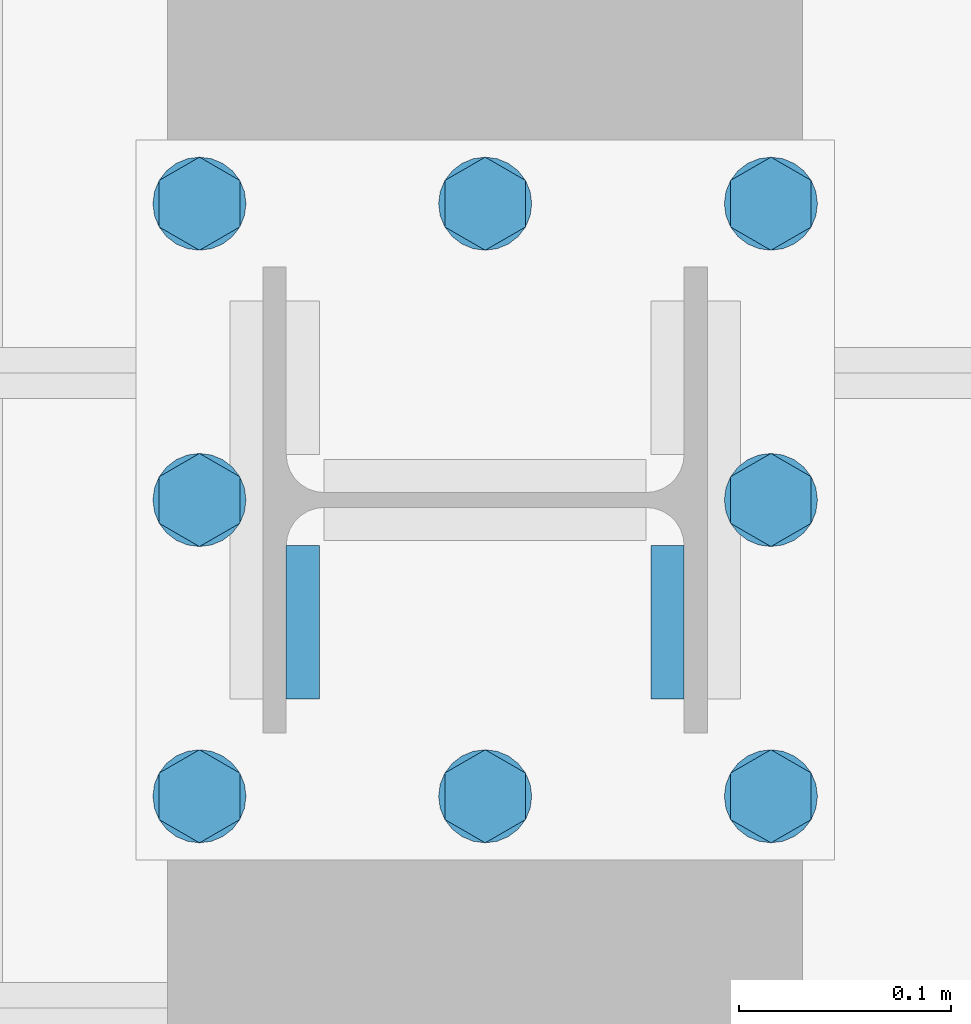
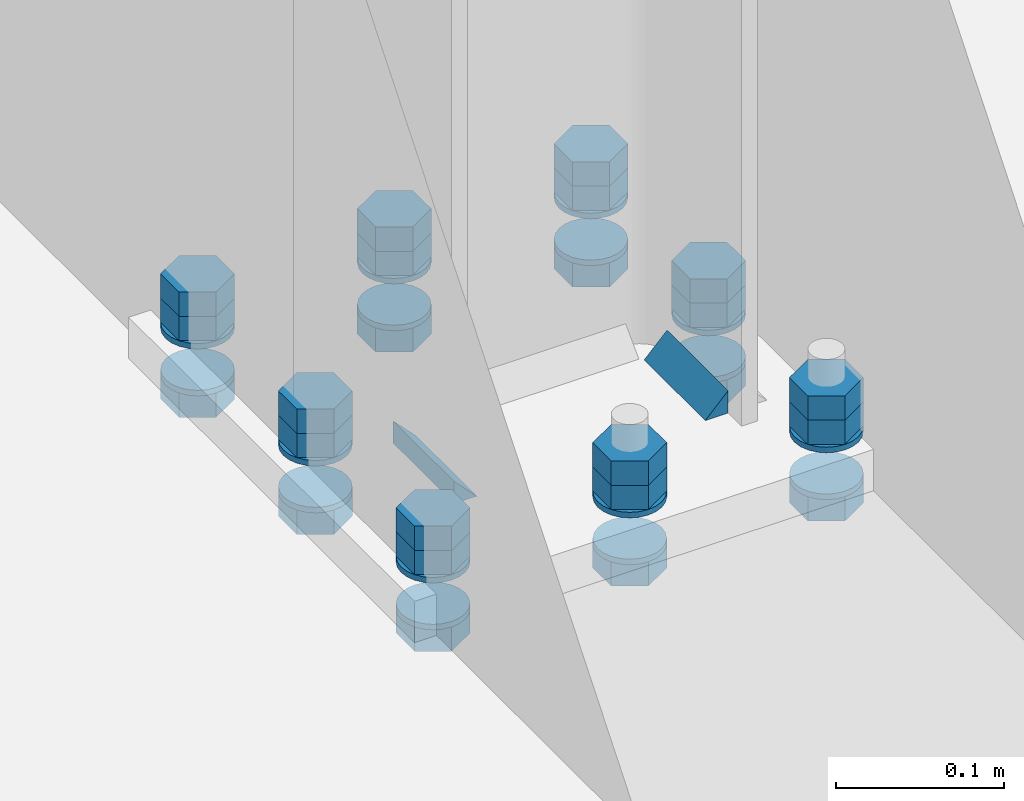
# One storey, part 15 of 29: 40 mechanical fasteners, 2 fasteners.
"""IFC4 building model written with IfcOpenShell, lengths in metres."""

from ifc_helpers import new_model, si_unit, frame, origin_with_axes, place, context, project, spatial, polyline, outline, extrude, type_object, element, save


model = new_model("IFC4")

# Units and contexts
model_context = context("Model", 3, precision=1e-05, world=origin_with_axes())
ifc_project = project(units=[si_unit("LENGTHUNIT", "METRE"), si_unit("AREAUNIT", "SQUARE_METRE"), si_unit("VOLUMEUNIT", "CUBIC_METRE"), si_unit("MASSUNIT", "GRAM", prefix="KILO"), si_unit("TIMEUNIT", "SECOND"), si_unit("PLANEANGLEUNIT", "RADIAN"), si_unit("SOLIDANGLEUNIT", "STERADIAN"), si_unit("THERMODYNAMICTEMPERATUREUNIT", "DEGREE_CELSIUS")], contexts=[model_context])

# Site, building, storey
placement_1 = place(None, origin_with_axes())
site = spatial("IfcSite", under=ifc_project, at=placement_1, Name="Italia", CompositionType="ELEMENT")
building = spatial("IfcBuilding", under=site, at=placement_1, Name="Capannone", CompositionType="ELEMENT")
storey = spatial("IfcBuildingStorey", under=building, at=placement_1, Name="Storey 0", CompositionType="ELEMENT", Elevation=0.0)

# Fasteners
fastener_type_1 = type_object("IfcFastenerType", Name="Collegamenti 0001_0101 0002_0102 0003_0103 0004_0104 0005_0105 0006_0106 0007_0107 0008_0108 0009_0109 0010_0110 0011_0111 0012_0112", PredefinedType="WELD")
placement_2 = place(placement_1, origin_with_axes())
fastener_1_placement = place(placement_2, origin_with_axes())
element("IfcFastener", 1, at=fastener_1_placement, inside=storey, type_object=fastener_type_1, Name="Collegamenti 0001_0101 0002_0102 0003_0103 0004_0104 0005_0105 0006_0106 0007_0107 0008_0108 0009_0109 0010_0110 0011_0111 0012_0112", context=model_context, shape_type="SweptSolid", body=[
    extrude(outline(polyline([(0.0, 0.0), (0.0156882, 0.0161734), (0.0156882, 0.0), (0.0, 0.0)])), frame((0.0783618, 5.97855, 0.02995), z_axis=(0.0, -1.0, 0.0), x_axis=(1.0, 0.0, 0.0)), (0.0, 0.0, 1.0), 0.0725999),
])
fastener_type_2 = type_object("IfcFastenerType", Name="Collegamenti 0001_0101 0002_0102 0003_0103 0004_0104 0005_0105 0006_0106 0007_0107 0008_0108 0009_0109 0010_0110 0011_0111 0012_0112", PredefinedType="WELD")
fastener_2_placement = place(placement_2, origin_with_axes())
element("IfcFastener", 2, at=fastener_2_placement, inside=storey, type_object=fastener_type_2, Name="Collegamenti 0001_0101 0002_0102 0003_0103 0004_0104 0005_0105 0006_0106 0007_0107 0008_0108 0009_0109 0010_0110 0011_0111 0012_0112", context=model_context, shape_type="SweptSolid", body=[
    extrude(outline(polyline([(0.0, 0.0), (0.0156882, 0.0161734), (0.0156882, 0.0), (0.0, 0.0)])), frame((-0.0783618, 5.90595, 0.02995), z_axis=(0.0, 1.0, 0.0), x_axis=(-1.0, 0.0, 0.0)), (0.0, 0.0, 1.0), 0.0725999),
])

# Mechanical fasteners
mechanical_fastener_type_1 = type_object("IfcMechanicalFastenerType", Name="Collegamenti 0001_0101 0002_0102 0003_0103 0004_0104 0005_0105 0006_0106 0007_0107 0008_0108 0009_0109 0010_0110 0011_0111 0012_0112", PredefinedType="BOLT")
mechanical_fastener_1_placement = place(placement_2, origin_with_axes())
element("IfcMechanicalFastener", 3, at=mechanical_fastener_1_placement, inside=storey, type_object=mechanical_fastener_type_1, Name="Collegamenti 0001_0101 0002_0102 0003_0103 0004_0104 0005_0105 0006_0106 0007_0107 0008_0108 0009_0109 0010_0110 0011_0111 0012_0112", NominalDiameter=0.0219998, context=model_context, shape_type="SweptSolid", body=[
    extrude(outline(polyline([(0.0, 0.0), (-0.0219998, 0.0), (-0.033, 0.0190526), (-0.0219998, 0.0381051), (0.0, 0.0381051), (0.0110002, 0.0190526), (0.0, 0.0)])), frame((0.154053, 5.871, 0.034), z_axis=(0.0, 0.0, 1.0), x_axis=(0.0, 1.0, 0.0)), (0.0, 0.0, 1.0), 0.0176),
])
mechanical_fastener_type_2 = type_object("IfcMechanicalFastenerType", Name="Collegamenti 0001_0101 0002_0102 0003_0103 0004_0104 0005_0105 0006_0106 0007_0107 0008_0108 0009_0109 0010_0110 0011_0111 0012_0112", PredefinedType="BOLT")
mechanical_fastener_2_placement = place(placement_2, origin_with_axes())
element("IfcMechanicalFastener", 4, at=mechanical_fastener_2_placement, inside=storey, type_object=mechanical_fastener_type_2, Name="Collegamenti 0001_0101 0002_0102 0003_0103 0004_0104 0005_0105 0006_0106 0007_0107 0008_0108 0009_0109 0010_0110 0011_0111 0012_0112", NominalDiameter=0.0219998, context=model_context, shape_type="SweptSolid", body=[
    extrude(outline(polyline([(0.0, 0.0), (-0.0219998, 0.0), (-0.033, 0.0190526), (-0.0219998, 0.0381051), (0.0, 0.0381051), (0.0110002, 0.0190526), (0.0, 0.0)])), frame((0.154053, 5.871, 0.0516), z_axis=(0.0, 0.0, 1.0), x_axis=(0.0, 1.0, 0.0)), (0.0, 0.0, 1.0), 0.0176),
])
mechanical_fastener_type_3 = type_object("IfcMechanicalFastenerType", Name="Collegamenti 0001_0101 0002_0102 0003_0103 0004_0104 0005_0105 0006_0106 0007_0107 0008_0108 0009_0109 0010_0110 0011_0111 0012_0112", PredefinedType="BOLT")
mechanical_fastener_3_placement = place(placement_2, origin_with_axes())
element("IfcMechanicalFastener", 5, at=mechanical_fastener_3_placement, inside=storey, type_object=mechanical_fastener_type_3, Name="Collegamenti 0001_0101 0002_0102 0003_0103 0004_0104 0005_0105 0006_0106 0007_0107 0008_0108 0009_0109 0010_0110 0011_0111 0012_0112", NominalDiameter=0.0219998, context=model_context, shape_type="SweptSolid", body=[
    extrude(outline(polyline([(0.0, 0.0), (-0.0219998, 0.0), (-0.033, 0.0190526), (-0.0219998, 0.0381051), (0.0, 0.0381051), (0.0110002, 0.0190526), (0.0, 0.0)])), frame((0.154053, 5.871, -0.0216), z_axis=(0.0, 0.0, 1.0), x_axis=(0.0, 1.0, 0.0)), (0.0, 0.0, 1.0), 0.0176),
])
mechanical_fastener_type_4 = type_object("IfcMechanicalFastenerType", Name="Collegamenti 0001_0101 0002_0102 0003_0103 0004_0104 0005_0105 0006_0106 0007_0107 0008_0108 0009_0109 0010_0110 0011_0111 0012_0112", PredefinedType="BOLT")
mechanical_fastener_4_placement = place(placement_2, origin_with_axes())
element("IfcMechanicalFastener", 6, at=mechanical_fastener_4_placement, inside=storey, type_object=mechanical_fastener_type_4, Name="Collegamenti 0001_0101 0002_0102 0003_0103 0004_0104 0005_0105 0006_0106 0007_0107 0008_0108 0009_0109 0010_0110 0011_0111 0012_0112", NominalDiameter=0.044, context=model_context, shape_type="SweptSolid", body=[
    extrude(outline(polyline([(0.0, 0.0), (-0.000749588, -0.00569402), (-0.00294733, -0.011), (-0.0064435, -0.0155564), (-0.0109997, -0.0190526), (-0.0163059, -0.0212504), (-0.0219998, -0.022), (-0.0276937, -0.0212504), (-0.033, -0.0190526), (-0.0375562, -0.0155564), (-0.0410523, -0.011), (-0.0432501, -0.00569402), (-0.0439997, 0.0), (-0.0432501, 0.00569402), (-0.0410523, 0.011), (-0.0375562, 0.0155564), (-0.033, 0.0190526), (-0.0276937, 0.0212504), (-0.0219998, 0.022), (-0.0163059, 0.0212504), (-0.0109997, 0.0190526), (-0.0064435, 0.0155563), (-0.00294733, 0.011), (-0.000749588, 0.00569402), (0.0, 0.0)])), frame((0.135, 5.882, 0.03), z_axis=(0.0, 0.0, 1.0), x_axis=(0.0, 1.0, 0.0)), (0.0, 0.0, 1.0), 0.004),
])
mechanical_fastener_type_5 = type_object("IfcMechanicalFastenerType", Name="Collegamenti 0001_0101 0002_0102 0003_0103 0004_0104 0005_0105 0006_0106 0007_0107 0008_0108 0009_0109 0010_0110 0011_0111 0012_0112", PredefinedType="BOLT")
mechanical_fastener_5_placement = place(placement_2, origin_with_axes())
element("IfcMechanicalFastener", 7, at=mechanical_fastener_5_placement, inside=storey, type_object=mechanical_fastener_type_5, Name="Collegamenti 0001_0101 0002_0102 0003_0103 0004_0104 0005_0105 0006_0106 0007_0107 0008_0108 0009_0109 0010_0110 0011_0111 0012_0112", NominalDiameter=0.044, context=model_context, shape_type="SweptSolid", body=[
    extrude(outline(polyline([(0.0, 0.0), (-0.000749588, -0.00569402), (-0.00294733, -0.011), (-0.0064435, -0.0155564), (-0.0109997, -0.0190526), (-0.0163059, -0.0212504), (-0.0219998, -0.022), (-0.0276937, -0.0212504), (-0.033, -0.0190526), (-0.0375562, -0.0155564), (-0.0410523, -0.011), (-0.0432501, -0.00569402), (-0.0439997, 0.0), (-0.0432501, 0.00569402), (-0.0410523, 0.011), (-0.0375562, 0.0155564), (-0.033, 0.0190526), (-0.0276937, 0.0212504), (-0.0219998, 0.022), (-0.0163059, 0.0212504), (-0.0109997, 0.0190526), (-0.0064435, 0.0155563), (-0.00294733, 0.011), (-0.000749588, 0.00569402), (0.0, 0.0)])), frame((0.135, 5.882, -0.004), z_axis=(0.0, 0.0, 1.0), x_axis=(0.0, 1.0, 0.0)), (0.0, 0.0, 1.0), 0.004),
])
mechanical_fastener_type_6 = type_object("IfcMechanicalFastenerType", Name="Collegamenti 0001_0101 0002_0102 0003_0103 0004_0104 0005_0105 0006_0106 0007_0107 0008_0108 0009_0109 0010_0110 0011_0111 0012_0112", PredefinedType="BOLT")
mechanical_fastener_6_placement = place(placement_2, origin_with_axes())
element("IfcMechanicalFastener", 8, at=mechanical_fastener_6_placement, inside=storey, type_object=mechanical_fastener_type_6, Name="Collegamenti 0001_0101 0002_0102 0003_0103 0004_0104 0005_0105 0006_0106 0007_0107 0008_0108 0009_0109 0010_0110 0011_0111 0012_0112", NominalDiameter=0.0219998, context=model_context, shape_type="SweptSolid", body=[
    extrude(outline(polyline([(0.0, 0.0), (-0.0220003, 0.0), (-0.033, 0.0190526), (-0.0220003, 0.0381051), (0.0, 0.0381051), (0.0109997, 0.0190526), (0.0, 0.0)])), frame((0.154053, 6.011, 0.034), z_axis=(0.0, 0.0, 1.0), x_axis=(0.0, 1.0, 0.0)), (0.0, 0.0, 1.0), 0.0176),
])
mechanical_fastener_type_7 = type_object("IfcMechanicalFastenerType", Name="Collegamenti 0001_0101 0002_0102 0003_0103 0004_0104 0005_0105 0006_0106 0007_0107 0008_0108 0009_0109 0010_0110 0011_0111 0012_0112", PredefinedType="BOLT")
mechanical_fastener_7_placement = place(placement_2, origin_with_axes())
element("IfcMechanicalFastener", 9, at=mechanical_fastener_7_placement, inside=storey, type_object=mechanical_fastener_type_7, Name="Collegamenti 0001_0101 0002_0102 0003_0103 0004_0104 0005_0105 0006_0106 0007_0107 0008_0108 0009_0109 0010_0110 0011_0111 0012_0112", NominalDiameter=0.0219998, context=model_context, shape_type="SweptSolid", body=[
    extrude(outline(polyline([(0.0, 0.0), (-0.0220003, 0.0), (-0.033, 0.0190526), (-0.0220003, 0.0381051), (0.0, 0.0381051), (0.0109997, 0.0190526), (0.0, 0.0)])), frame((0.154053, 6.011, 0.0516), z_axis=(0.0, 0.0, 1.0), x_axis=(0.0, 1.0, 0.0)), (0.0, 0.0, 1.0), 0.0176),
])
mechanical_fastener_type_8 = type_object("IfcMechanicalFastenerType", Name="Collegamenti 0001_0101 0002_0102 0003_0103 0004_0104 0005_0105 0006_0106 0007_0107 0008_0108 0009_0109 0010_0110 0011_0111 0012_0112", PredefinedType="BOLT")
mechanical_fastener_8_placement = place(placement_2, origin_with_axes())
element("IfcMechanicalFastener", 10, at=mechanical_fastener_8_placement, inside=storey, type_object=mechanical_fastener_type_8, Name="Collegamenti 0001_0101 0002_0102 0003_0103 0004_0104 0005_0105 0006_0106 0007_0107 0008_0108 0009_0109 0010_0110 0011_0111 0012_0112", NominalDiameter=0.0219998, context=model_context, shape_type="SweptSolid", body=[
    extrude(outline(polyline([(0.0, 0.0), (-0.0220003, 0.0), (-0.033, 0.0190526), (-0.0220003, 0.0381051), (0.0, 0.0381051), (0.0109997, 0.0190526), (0.0, 0.0)])), frame((0.154053, 6.011, -0.0216), z_axis=(0.0, 0.0, 1.0), x_axis=(0.0, 1.0, 0.0)), (0.0, 0.0, 1.0), 0.0176),
])
mechanical_fastener_type_9 = type_object("IfcMechanicalFastenerType", Name="Collegamenti 0001_0101 0002_0102 0003_0103 0004_0104 0005_0105 0006_0106 0007_0107 0008_0108 0009_0109 0010_0110 0011_0111 0012_0112", PredefinedType="BOLT")
mechanical_fastener_9_placement = place(placement_2, origin_with_axes())
element("IfcMechanicalFastener", 11, at=mechanical_fastener_9_placement, inside=storey, type_object=mechanical_fastener_type_9, Name="Collegamenti 0001_0101 0002_0102 0003_0103 0004_0104 0005_0105 0006_0106 0007_0107 0008_0108 0009_0109 0010_0110 0011_0111 0012_0112", NominalDiameter=0.044, context=model_context, shape_type="SweptSolid", body=[
    extrude(outline(polyline([(0.0, 0.0), (-0.000749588, -0.00569402), (-0.00294733, -0.011), (-0.0064435, -0.0155564), (-0.0109997, -0.0190526), (-0.0163059, -0.0212504), (-0.0219998, -0.022), (-0.0276937, -0.0212504), (-0.033, -0.0190526), (-0.0375562, -0.0155564), (-0.0410523, -0.011), (-0.0432501, -0.00569402), (-0.0439997, 0.0), (-0.0432501, 0.00569402), (-0.0410523, 0.011), (-0.0375562, 0.0155564), (-0.033, 0.0190526), (-0.0276937, 0.0212504), (-0.0219998, 0.022), (-0.0163059, 0.0212504), (-0.0109997, 0.0190526), (-0.0064435, 0.0155563), (-0.00294733, 0.011), (-0.000749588, 0.00569402), (0.0, 0.0)])), frame((0.135, 6.022, 0.03), z_axis=(0.0, 0.0, 1.0), x_axis=(0.0, 1.0, 0.0)), (0.0, 0.0, 1.0), 0.004),
])
mechanical_fastener_type_10 = type_object("IfcMechanicalFastenerType", Name="Collegamenti 0001_0101 0002_0102 0003_0103 0004_0104 0005_0105 0006_0106 0007_0107 0008_0108 0009_0109 0010_0110 0011_0111 0012_0112", PredefinedType="BOLT")
mechanical_fastener_10_placement = place(placement_2, origin_with_axes())
element("IfcMechanicalFastener", 12, at=mechanical_fastener_10_placement, inside=storey, type_object=mechanical_fastener_type_10, Name="Collegamenti 0001_0101 0002_0102 0003_0103 0004_0104 0005_0105 0006_0106 0007_0107 0008_0108 0009_0109 0010_0110 0011_0111 0012_0112", NominalDiameter=0.044, context=model_context, shape_type="SweptSolid", body=[
    extrude(outline(polyline([(0.0, 0.0), (-0.000749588, -0.00569402), (-0.00294733, -0.011), (-0.0064435, -0.0155564), (-0.0109997, -0.0190526), (-0.0163059, -0.0212504), (-0.0219998, -0.022), (-0.0276937, -0.0212504), (-0.033, -0.0190526), (-0.0375562, -0.0155564), (-0.0410523, -0.011), (-0.0432501, -0.00569402), (-0.0439997, 0.0), (-0.0432501, 0.00569402), (-0.0410523, 0.011), (-0.0375562, 0.0155564), (-0.033, 0.0190526), (-0.0276937, 0.0212504), (-0.0219998, 0.022), (-0.0163059, 0.0212504), (-0.0109997, 0.0190526), (-0.0064435, 0.0155563), (-0.00294733, 0.011), (-0.000749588, 0.00569402), (0.0, 0.0)])), frame((0.135, 6.022, -0.004), z_axis=(0.0, 0.0, 1.0), x_axis=(0.0, 1.0, 0.0)), (0.0, 0.0, 1.0), 0.004),
])
mechanical_fastener_type_11 = type_object("IfcMechanicalFastenerType", Name="Collegamenti 0001_0101 0002_0102 0003_0103 0004_0104 0005_0105 0006_0106 0007_0107 0008_0108 0009_0109 0010_0110 0011_0111 0012_0112", PredefinedType="BOLT")
mechanical_fastener_11_placement = place(placement_2, origin_with_axes())
element("IfcMechanicalFastener", 13, at=mechanical_fastener_11_placement, inside=storey, type_object=mechanical_fastener_type_11, Name="Collegamenti 0001_0101 0002_0102 0003_0103 0004_0104 0005_0105 0006_0106 0007_0107 0008_0108 0009_0109 0010_0110 0011_0111 0012_0112", NominalDiameter=0.0219998, context=model_context, shape_type="SweptSolid", body=[
    extrude(outline(polyline([(0.0, 0.0), (-0.0219998, 0.0), (-0.033, 0.0190526), (-0.0219998, 0.0381051), (0.0, 0.0381051), (0.0110002, 0.0190526), (0.0, 0.0)])), frame((0.154053, 6.151, 0.034), z_axis=(0.0, 0.0, 1.0), x_axis=(0.0, 1.0, 0.0)), (0.0, 0.0, 1.0), 0.0176),
])
mechanical_fastener_type_12 = type_object("IfcMechanicalFastenerType", Name="Collegamenti 0001_0101 0002_0102 0003_0103 0004_0104 0005_0105 0006_0106 0007_0107 0008_0108 0009_0109 0010_0110 0011_0111 0012_0112", PredefinedType="BOLT")
mechanical_fastener_12_placement = place(placement_2, origin_with_axes())
element("IfcMechanicalFastener", 14, at=mechanical_fastener_12_placement, inside=storey, type_object=mechanical_fastener_type_12, Name="Collegamenti 0001_0101 0002_0102 0003_0103 0004_0104 0005_0105 0006_0106 0007_0107 0008_0108 0009_0109 0010_0110 0011_0111 0012_0112", NominalDiameter=0.0219998, context=model_context, shape_type="SweptSolid", body=[
    extrude(outline(polyline([(0.0, 0.0), (-0.0219998, 0.0), (-0.033, 0.0190526), (-0.0219998, 0.0381051), (0.0, 0.0381051), (0.0110002, 0.0190526), (0.0, 0.0)])), frame((0.154053, 6.151, 0.0516), z_axis=(0.0, 0.0, 1.0), x_axis=(0.0, 1.0, 0.0)), (0.0, 0.0, 1.0), 0.0176),
])
mechanical_fastener_type_13 = type_object("IfcMechanicalFastenerType", Name="Collegamenti 0001_0101 0002_0102 0003_0103 0004_0104 0005_0105 0006_0106 0007_0107 0008_0108 0009_0109 0010_0110 0011_0111 0012_0112", PredefinedType="BOLT")
mechanical_fastener_13_placement = place(placement_2, origin_with_axes())
element("IfcMechanicalFastener", 15, at=mechanical_fastener_13_placement, inside=storey, type_object=mechanical_fastener_type_13, Name="Collegamenti 0001_0101 0002_0102 0003_0103 0004_0104 0005_0105 0006_0106 0007_0107 0008_0108 0009_0109 0010_0110 0011_0111 0012_0112", NominalDiameter=0.0219998, context=model_context, shape_type="SweptSolid", body=[
    extrude(outline(polyline([(0.0, 0.0), (-0.0219998, 0.0), (-0.033, 0.0190526), (-0.0219998, 0.0381051), (0.0, 0.0381051), (0.0110002, 0.0190526), (0.0, 0.0)])), frame((0.154053, 6.151, -0.0216), z_axis=(0.0, 0.0, 1.0), x_axis=(0.0, 1.0, 0.0)), (0.0, 0.0, 1.0), 0.0176),
])
mechanical_fastener_type_14 = type_object("IfcMechanicalFastenerType", Name="Collegamenti 0001_0101 0002_0102 0003_0103 0004_0104 0005_0105 0006_0106 0007_0107 0008_0108 0009_0109 0010_0110 0011_0111 0012_0112", PredefinedType="BOLT")
mechanical_fastener_14_placement = place(placement_2, origin_with_axes())
element("IfcMechanicalFastener", 16, at=mechanical_fastener_14_placement, inside=storey, type_object=mechanical_fastener_type_14, Name="Collegamenti 0001_0101 0002_0102 0003_0103 0004_0104 0005_0105 0006_0106 0007_0107 0008_0108 0009_0109 0010_0110 0011_0111 0012_0112", NominalDiameter=0.044, context=model_context, shape_type="SweptSolid", body=[
    extrude(outline(polyline([(0.0, 0.0), (-0.000749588, -0.00569402), (-0.00294733, -0.011), (-0.0064435, -0.0155564), (-0.0109997, -0.0190526), (-0.0163059, -0.0212504), (-0.0219998, -0.022), (-0.0276937, -0.0212504), (-0.033, -0.0190526), (-0.0375562, -0.0155564), (-0.0410523, -0.011), (-0.0432501, -0.00569402), (-0.0439997, 0.0), (-0.0432501, 0.00569402), (-0.0410523, 0.011), (-0.0375562, 0.0155564), (-0.033, 0.0190526), (-0.0276937, 0.0212504), (-0.0219998, 0.022), (-0.0163059, 0.0212504), (-0.0109997, 0.0190526), (-0.0064435, 0.0155563), (-0.00294733, 0.011), (-0.000749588, 0.00569402), (0.0, 0.0)])), frame((0.135, 6.162, 0.03), z_axis=(0.0, 0.0, 1.0), x_axis=(0.0, 1.0, 0.0)), (0.0, 0.0, 1.0), 0.004),
])
mechanical_fastener_type_15 = type_object("IfcMechanicalFastenerType", Name="Collegamenti 0001_0101 0002_0102 0003_0103 0004_0104 0005_0105 0006_0106 0007_0107 0008_0108 0009_0109 0010_0110 0011_0111 0012_0112", PredefinedType="BOLT")
mechanical_fastener_15_placement = place(placement_2, origin_with_axes())
element("IfcMechanicalFastener", 17, at=mechanical_fastener_15_placement, inside=storey, type_object=mechanical_fastener_type_15, Name="Collegamenti 0001_0101 0002_0102 0003_0103 0004_0104 0005_0105 0006_0106 0007_0107 0008_0108 0009_0109 0010_0110 0011_0111 0012_0112", NominalDiameter=0.044, context=model_context, shape_type="SweptSolid", body=[
    extrude(outline(polyline([(0.0, 0.0), (-0.000749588, -0.00569402), (-0.00294733, -0.011), (-0.0064435, -0.0155564), (-0.0109997, -0.0190526), (-0.0163059, -0.0212504), (-0.0219998, -0.022), (-0.0276937, -0.0212504), (-0.033, -0.0190526), (-0.0375562, -0.0155564), (-0.0410523, -0.011), (-0.0432501, -0.00569402), (-0.0439997, 0.0), (-0.0432501, 0.00569402), (-0.0410523, 0.011), (-0.0375562, 0.0155564), (-0.033, 0.0190526), (-0.0276937, 0.0212504), (-0.0219998, 0.022), (-0.0163059, 0.0212504), (-0.0109997, 0.0190526), (-0.0064435, 0.0155563), (-0.00294733, 0.011), (-0.000749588, 0.00569402), (0.0, 0.0)])), frame((0.135, 6.162, -0.004), z_axis=(0.0, 0.0, 1.0), x_axis=(0.0, 1.0, 0.0)), (0.0, 0.0, 1.0), 0.004),
])
mechanical_fastener_type_16 = type_object("IfcMechanicalFastenerType", Name="Collegamenti 0001_0101 0002_0102 0003_0103 0004_0104 0005_0105 0006_0106 0007_0107 0008_0108 0009_0109 0010_0110 0011_0111 0012_0112", PredefinedType="BOLT")
mechanical_fastener_16_placement = place(placement_2, origin_with_axes())
element("IfcMechanicalFastener", 18, at=mechanical_fastener_16_placement, inside=storey, type_object=mechanical_fastener_type_16, Name="Collegamenti 0001_0101 0002_0102 0003_0103 0004_0104 0005_0105 0006_0106 0007_0107 0008_0108 0009_0109 0010_0110 0011_0111 0012_0112", NominalDiameter=0.0219998, context=model_context, shape_type="SweptSolid", body=[
    extrude(outline(polyline([(0.0, 0.0), (-0.0219998, 0.0), (-0.033, 0.0190526), (-0.0219998, 0.0381051), (0.0, 0.0381051), (0.0110002, 0.0190526), (0.0, 0.0)])), frame((0.0190526, 5.871, 0.034), z_axis=(0.0, 0.0, 1.0), x_axis=(0.0, 1.0, 0.0)), (0.0, 0.0, 1.0), 0.0176),
])
mechanical_fastener_type_17 = type_object("IfcMechanicalFastenerType", Name="Collegamenti 0001_0101 0002_0102 0003_0103 0004_0104 0005_0105 0006_0106 0007_0107 0008_0108 0009_0109 0010_0110 0011_0111 0012_0112", PredefinedType="BOLT")
mechanical_fastener_17_placement = place(placement_2, origin_with_axes())
element("IfcMechanicalFastener", 19, at=mechanical_fastener_17_placement, inside=storey, type_object=mechanical_fastener_type_17, Name="Collegamenti 0001_0101 0002_0102 0003_0103 0004_0104 0005_0105 0006_0106 0007_0107 0008_0108 0009_0109 0010_0110 0011_0111 0012_0112", NominalDiameter=0.0219998, context=model_context, shape_type="SweptSolid", body=[
    extrude(outline(polyline([(0.0, 0.0), (-0.0219998, 0.0), (-0.033, 0.0190526), (-0.0219998, 0.0381051), (0.0, 0.0381051), (0.0110002, 0.0190526), (0.0, 0.0)])), frame((0.0190526, 5.871, 0.0516), z_axis=(0.0, 0.0, 1.0), x_axis=(0.0, 1.0, 0.0)), (0.0, 0.0, 1.0), 0.0176),
])
mechanical_fastener_type_18 = type_object("IfcMechanicalFastenerType", Name="Collegamenti 0001_0101 0002_0102 0003_0103 0004_0104 0005_0105 0006_0106 0007_0107 0008_0108 0009_0109 0010_0110 0011_0111 0012_0112", PredefinedType="BOLT")
mechanical_fastener_18_placement = place(placement_2, origin_with_axes())
element("IfcMechanicalFastener", 20, at=mechanical_fastener_18_placement, inside=storey, type_object=mechanical_fastener_type_18, Name="Collegamenti 0001_0101 0002_0102 0003_0103 0004_0104 0005_0105 0006_0106 0007_0107 0008_0108 0009_0109 0010_0110 0011_0111 0012_0112", NominalDiameter=0.0219998, context=model_context, shape_type="SweptSolid", body=[
    extrude(outline(polyline([(0.0, 0.0), (-0.0219998, 0.0), (-0.033, 0.0190526), (-0.0219998, 0.0381051), (0.0, 0.0381051), (0.0110002, 0.0190526), (0.0, 0.0)])), frame((0.0190526, 5.871, -0.0216), z_axis=(0.0, 0.0, 1.0), x_axis=(0.0, 1.0, 0.0)), (0.0, 0.0, 1.0), 0.0176),
])
mechanical_fastener_type_19 = type_object("IfcMechanicalFastenerType", Name="Collegamenti 0001_0101 0002_0102 0003_0103 0004_0104 0005_0105 0006_0106 0007_0107 0008_0108 0009_0109 0010_0110 0011_0111 0012_0112", PredefinedType="BOLT")
mechanical_fastener_19_placement = place(placement_2, origin_with_axes())
element("IfcMechanicalFastener", 21, at=mechanical_fastener_19_placement, inside=storey, type_object=mechanical_fastener_type_19, Name="Collegamenti 0001_0101 0002_0102 0003_0103 0004_0104 0005_0105 0006_0106 0007_0107 0008_0108 0009_0109 0010_0110 0011_0111 0012_0112", NominalDiameter=0.044, context=model_context, shape_type="SweptSolid", body=[
    extrude(outline(polyline([(0.0, 0.0), (-0.000749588, -0.00569402), (-0.00294733, -0.011), (-0.0064435, -0.0155563), (-0.0109997, -0.0190526), (-0.0163059, -0.0212504), (-0.0219998, -0.022), (-0.0276937, -0.0212504), (-0.033, -0.0190526), (-0.0375562, -0.0155563), (-0.0410523, -0.011), (-0.0432501, -0.00569402), (-0.0439997, 0.0), (-0.0432501, 0.00569402), (-0.0410523, 0.011), (-0.0375562, 0.0155564), (-0.033, 0.0190526), (-0.0276937, 0.0212504), (-0.0219998, 0.022), (-0.0163059, 0.0212504), (-0.0109997, 0.0190526), (-0.0064435, 0.0155563), (-0.00294733, 0.011), (-0.000749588, 0.00569401), (0.0, 0.0)])), frame((0.0, 5.882, 0.03), z_axis=(0.0, 0.0, 1.0), x_axis=(0.0, 1.0, 0.0)), (0.0, 0.0, 1.0), 0.004),
])
mechanical_fastener_type_20 = type_object("IfcMechanicalFastenerType", Name="Collegamenti 0001_0101 0002_0102 0003_0103 0004_0104 0005_0105 0006_0106 0007_0107 0008_0108 0009_0109 0010_0110 0011_0111 0012_0112", PredefinedType="BOLT")
mechanical_fastener_20_placement = place(placement_2, origin_with_axes())
element("IfcMechanicalFastener", 22, at=mechanical_fastener_20_placement, inside=storey, type_object=mechanical_fastener_type_20, Name="Collegamenti 0001_0101 0002_0102 0003_0103 0004_0104 0005_0105 0006_0106 0007_0107 0008_0108 0009_0109 0010_0110 0011_0111 0012_0112", NominalDiameter=0.044, context=model_context, shape_type="SweptSolid", body=[
    extrude(outline(polyline([(0.0, 0.0), (-0.000749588, -0.00569402), (-0.00294733, -0.011), (-0.0064435, -0.0155563), (-0.0109997, -0.0190526), (-0.0163059, -0.0212504), (-0.0219998, -0.022), (-0.0276937, -0.0212504), (-0.033, -0.0190526), (-0.0375562, -0.0155563), (-0.0410523, -0.011), (-0.0432501, -0.00569402), (-0.0439997, 0.0), (-0.0432501, 0.00569402), (-0.0410523, 0.011), (-0.0375562, 0.0155564), (-0.033, 0.0190526), (-0.0276937, 0.0212504), (-0.0219998, 0.022), (-0.0163059, 0.0212504), (-0.0109997, 0.0190526), (-0.0064435, 0.0155563), (-0.00294733, 0.011), (-0.000749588, 0.00569401), (0.0, 0.0)])), frame((0.0, 5.882, -0.004), z_axis=(0.0, 0.0, 1.0), x_axis=(0.0, 1.0, 0.0)), (0.0, 0.0, 1.0), 0.004),
])
mechanical_fastener_type_21 = type_object("IfcMechanicalFastenerType", Name="Collegamenti 0001_0101 0002_0102 0003_0103 0004_0104 0005_0105 0006_0106 0007_0107 0008_0108 0009_0109 0010_0110 0011_0111 0012_0112", PredefinedType="BOLT")
mechanical_fastener_21_placement = place(placement_2, origin_with_axes())
element("IfcMechanicalFastener", 23, at=mechanical_fastener_21_placement, inside=storey, type_object=mechanical_fastener_type_21, Name="Collegamenti 0001_0101 0002_0102 0003_0103 0004_0104 0005_0105 0006_0106 0007_0107 0008_0108 0009_0109 0010_0110 0011_0111 0012_0112", NominalDiameter=0.0219998, context=model_context, shape_type="SweptSolid", body=[
    extrude(outline(polyline([(0.0, 0.0), (-0.0219998, 0.0), (-0.033, 0.0190526), (-0.0219998, 0.0381051), (0.0, 0.0381051), (0.0110002, 0.0190526), (0.0, 0.0)])), frame((0.0190526, 6.151, 0.034), z_axis=(0.0, 0.0, 1.0), x_axis=(0.0, 1.0, 0.0)), (0.0, 0.0, 1.0), 0.0176),
])
mechanical_fastener_type_22 = type_object("IfcMechanicalFastenerType", Name="Collegamenti 0001_0101 0002_0102 0003_0103 0004_0104 0005_0105 0006_0106 0007_0107 0008_0108 0009_0109 0010_0110 0011_0111 0012_0112", PredefinedType="BOLT")
mechanical_fastener_22_placement = place(placement_2, origin_with_axes())
element("IfcMechanicalFastener", 24, at=mechanical_fastener_22_placement, inside=storey, type_object=mechanical_fastener_type_22, Name="Collegamenti 0001_0101 0002_0102 0003_0103 0004_0104 0005_0105 0006_0106 0007_0107 0008_0108 0009_0109 0010_0110 0011_0111 0012_0112", NominalDiameter=0.0219998, context=model_context, shape_type="SweptSolid", body=[
    extrude(outline(polyline([(0.0, 0.0), (-0.0219998, 0.0), (-0.033, 0.0190526), (-0.0219998, 0.0381051), (0.0, 0.0381051), (0.0110002, 0.0190526), (0.0, 0.0)])), frame((0.0190526, 6.151, 0.0516), z_axis=(0.0, 0.0, 1.0), x_axis=(0.0, 1.0, 0.0)), (0.0, 0.0, 1.0), 0.0176),
])
mechanical_fastener_type_23 = type_object("IfcMechanicalFastenerType", Name="Collegamenti 0001_0101 0002_0102 0003_0103 0004_0104 0005_0105 0006_0106 0007_0107 0008_0108 0009_0109 0010_0110 0011_0111 0012_0112", PredefinedType="BOLT")
mechanical_fastener_23_placement = place(placement_2, origin_with_axes())
element("IfcMechanicalFastener", 25, at=mechanical_fastener_23_placement, inside=storey, type_object=mechanical_fastener_type_23, Name="Collegamenti 0001_0101 0002_0102 0003_0103 0004_0104 0005_0105 0006_0106 0007_0107 0008_0108 0009_0109 0010_0110 0011_0111 0012_0112", NominalDiameter=0.0219998, context=model_context, shape_type="SweptSolid", body=[
    extrude(outline(polyline([(0.0, 0.0), (-0.0219998, 0.0), (-0.033, 0.0190526), (-0.0219998, 0.0381051), (0.0, 0.0381051), (0.0110002, 0.0190526), (0.0, 0.0)])), frame((0.0190526, 6.151, -0.0216), z_axis=(0.0, 0.0, 1.0), x_axis=(0.0, 1.0, 0.0)), (0.0, 0.0, 1.0), 0.0176),
])
mechanical_fastener_type_24 = type_object("IfcMechanicalFastenerType", Name="Collegamenti 0001_0101 0002_0102 0003_0103 0004_0104 0005_0105 0006_0106 0007_0107 0008_0108 0009_0109 0010_0110 0011_0111 0012_0112", PredefinedType="BOLT")
mechanical_fastener_24_placement = place(placement_2, origin_with_axes())
element("IfcMechanicalFastener", 26, at=mechanical_fastener_24_placement, inside=storey, type_object=mechanical_fastener_type_24, Name="Collegamenti 0001_0101 0002_0102 0003_0103 0004_0104 0005_0105 0006_0106 0007_0107 0008_0108 0009_0109 0010_0110 0011_0111 0012_0112", NominalDiameter=0.044, context=model_context, shape_type="SweptSolid", body=[
    extrude(outline(polyline([(0.0, 0.0), (-0.000749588, -0.00569402), (-0.00294733, -0.011), (-0.0064435, -0.0155563), (-0.0109997, -0.0190526), (-0.0163059, -0.0212504), (-0.0219998, -0.022), (-0.0276937, -0.0212504), (-0.033, -0.0190526), (-0.0375562, -0.0155563), (-0.0410523, -0.011), (-0.0432501, -0.00569402), (-0.0439997, 0.0), (-0.0432501, 0.00569402), (-0.0410523, 0.011), (-0.0375562, 0.0155564), (-0.033, 0.0190526), (-0.0276937, 0.0212504), (-0.0219998, 0.022), (-0.0163059, 0.0212504), (-0.0109997, 0.0190526), (-0.0064435, 0.0155563), (-0.00294733, 0.011), (-0.000749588, 0.00569401), (0.0, 0.0)])), frame((0.0, 6.162, 0.03), z_axis=(0.0, 0.0, 1.0), x_axis=(0.0, 1.0, 0.0)), (0.0, 0.0, 1.0), 0.004),
])
mechanical_fastener_type_25 = type_object("IfcMechanicalFastenerType", Name="Collegamenti 0001_0101 0002_0102 0003_0103 0004_0104 0005_0105 0006_0106 0007_0107 0008_0108 0009_0109 0010_0110 0011_0111 0012_0112", PredefinedType="BOLT")
mechanical_fastener_25_placement = place(placement_2, origin_with_axes())
element("IfcMechanicalFastener", 27, at=mechanical_fastener_25_placement, inside=storey, type_object=mechanical_fastener_type_25, Name="Collegamenti 0001_0101 0002_0102 0003_0103 0004_0104 0005_0105 0006_0106 0007_0107 0008_0108 0009_0109 0010_0110 0011_0111 0012_0112", NominalDiameter=0.044, context=model_context, shape_type="SweptSolid", body=[
    extrude(outline(polyline([(0.0, 0.0), (-0.000749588, -0.00569402), (-0.00294733, -0.011), (-0.0064435, -0.0155563), (-0.0109997, -0.0190526), (-0.0163059, -0.0212504), (-0.0219998, -0.022), (-0.0276937, -0.0212504), (-0.033, -0.0190526), (-0.0375562, -0.0155563), (-0.0410523, -0.011), (-0.0432501, -0.00569402), (-0.0439997, 0.0), (-0.0432501, 0.00569402), (-0.0410523, 0.011), (-0.0375562, 0.0155564), (-0.033, 0.0190526), (-0.0276937, 0.0212504), (-0.0219998, 0.022), (-0.0163059, 0.0212504), (-0.0109997, 0.0190526), (-0.0064435, 0.0155563), (-0.00294733, 0.011), (-0.000749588, 0.00569401), (0.0, 0.0)])), frame((0.0, 6.162, -0.004), z_axis=(0.0, 0.0, 1.0), x_axis=(0.0, 1.0, 0.0)), (0.0, 0.0, 1.0), 0.004),
])
mechanical_fastener_type_26 = type_object("IfcMechanicalFastenerType", Name="Collegamenti 0001_0101 0002_0102 0003_0103 0004_0104 0005_0105 0006_0106 0007_0107 0008_0108 0009_0109 0010_0110 0011_0111 0012_0112", PredefinedType="BOLT")
mechanical_fastener_26_placement = place(placement_2, origin_with_axes())
element("IfcMechanicalFastener", 28, at=mechanical_fastener_26_placement, inside=storey, type_object=mechanical_fastener_type_26, Name="Collegamenti 0001_0101 0002_0102 0003_0103 0004_0104 0005_0105 0006_0106 0007_0107 0008_0108 0009_0109 0010_0110 0011_0111 0012_0112", NominalDiameter=0.0219998, context=model_context, shape_type="SweptSolid", body=[
    extrude(outline(polyline([(0.0, 0.0), (-0.0219998, 0.0), (-0.033, 0.0190526), (-0.0219998, 0.0381051), (0.0, 0.0381051), (0.0110002, 0.0190526), (0.0, 0.0)])), frame((-0.115947, 5.871, 0.034), z_axis=(0.0, 0.0, 1.0), x_axis=(0.0, 1.0, 0.0)), (0.0, 0.0, 1.0), 0.0176),
])
mechanical_fastener_type_27 = type_object("IfcMechanicalFastenerType", Name="Collegamenti 0001_0101 0002_0102 0003_0103 0004_0104 0005_0105 0006_0106 0007_0107 0008_0108 0009_0109 0010_0110 0011_0111 0012_0112", PredefinedType="BOLT")
mechanical_fastener_27_placement = place(placement_2, origin_with_axes())
element("IfcMechanicalFastener", 29, at=mechanical_fastener_27_placement, inside=storey, type_object=mechanical_fastener_type_27, Name="Collegamenti 0001_0101 0002_0102 0003_0103 0004_0104 0005_0105 0006_0106 0007_0107 0008_0108 0009_0109 0010_0110 0011_0111 0012_0112", NominalDiameter=0.0219998, context=model_context, shape_type="SweptSolid", body=[
    extrude(outline(polyline([(0.0, 0.0), (-0.0219998, 0.0), (-0.033, 0.0190526), (-0.0219998, 0.0381051), (0.0, 0.0381051), (0.0110002, 0.0190526), (0.0, 0.0)])), frame((-0.115947, 5.871, 0.0516), z_axis=(0.0, 0.0, 1.0), x_axis=(0.0, 1.0, 0.0)), (0.0, 0.0, 1.0), 0.0176),
])
mechanical_fastener_type_28 = type_object("IfcMechanicalFastenerType", Name="Collegamenti 0001_0101 0002_0102 0003_0103 0004_0104 0005_0105 0006_0106 0007_0107 0008_0108 0009_0109 0010_0110 0011_0111 0012_0112", PredefinedType="BOLT")
mechanical_fastener_28_placement = place(placement_2, origin_with_axes())
element("IfcMechanicalFastener", 30, at=mechanical_fastener_28_placement, inside=storey, type_object=mechanical_fastener_type_28, Name="Collegamenti 0001_0101 0002_0102 0003_0103 0004_0104 0005_0105 0006_0106 0007_0107 0008_0108 0009_0109 0010_0110 0011_0111 0012_0112", NominalDiameter=0.0219998, context=model_context, shape_type="SweptSolid", body=[
    extrude(outline(polyline([(0.0, 0.0), (-0.0219998, 0.0), (-0.033, 0.0190526), (-0.0219998, 0.0381051), (0.0, 0.0381051), (0.0110002, 0.0190526), (0.0, 0.0)])), frame((-0.115947, 5.871, -0.0216), z_axis=(0.0, 0.0, 1.0), x_axis=(0.0, 1.0, 0.0)), (0.0, 0.0, 1.0), 0.0176),
])
mechanical_fastener_type_29 = type_object("IfcMechanicalFastenerType", Name="Collegamenti 0001_0101 0002_0102 0003_0103 0004_0104 0005_0105 0006_0106 0007_0107 0008_0108 0009_0109 0010_0110 0011_0111 0012_0112", PredefinedType="BOLT")
mechanical_fastener_29_placement = place(placement_2, origin_with_axes())
element("IfcMechanicalFastener", 31, at=mechanical_fastener_29_placement, inside=storey, type_object=mechanical_fastener_type_29, Name="Collegamenti 0001_0101 0002_0102 0003_0103 0004_0104 0005_0105 0006_0106 0007_0107 0008_0108 0009_0109 0010_0110 0011_0111 0012_0112", NominalDiameter=0.044, context=model_context, shape_type="SweptSolid", body=[
    extrude(outline(polyline([(0.0, 0.0), (-0.000749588, -0.00569402), (-0.00294733, -0.011), (-0.0064435, -0.0155564), (-0.0109997, -0.0190526), (-0.0163059, -0.0212504), (-0.0219998, -0.022), (-0.0276937, -0.0212504), (-0.033, -0.0190526), (-0.0375562, -0.0155564), (-0.0410523, -0.011), (-0.0432501, -0.00569402), (-0.0439997, 0.0), (-0.0432501, 0.00569402), (-0.0410523, 0.011), (-0.0375562, 0.0155564), (-0.033, 0.0190526), (-0.0276937, 0.0212504), (-0.0219998, 0.022), (-0.0163059, 0.0212504), (-0.0109997, 0.0190526), (-0.0064435, 0.0155564), (-0.00294733, 0.011), (-0.000749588, 0.00569402), (0.0, 0.0)])), frame((-0.135, 5.882, 0.03), z_axis=(0.0, 0.0, 1.0), x_axis=(0.0, 1.0, 0.0)), (0.0, 0.0, 1.0), 0.004),
])
mechanical_fastener_type_30 = type_object("IfcMechanicalFastenerType", Name="Collegamenti 0001_0101 0002_0102 0003_0103 0004_0104 0005_0105 0006_0106 0007_0107 0008_0108 0009_0109 0010_0110 0011_0111 0012_0112", PredefinedType="BOLT")
mechanical_fastener_30_placement = place(placement_2, origin_with_axes())
element("IfcMechanicalFastener", 32, at=mechanical_fastener_30_placement, inside=storey, type_object=mechanical_fastener_type_30, Name="Collegamenti 0001_0101 0002_0102 0003_0103 0004_0104 0005_0105 0006_0106 0007_0107 0008_0108 0009_0109 0010_0110 0011_0111 0012_0112", NominalDiameter=0.044, context=model_context, shape_type="SweptSolid", body=[
    extrude(outline(polyline([(0.0, 0.0), (-0.000749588, -0.00569402), (-0.00294733, -0.011), (-0.0064435, -0.0155564), (-0.0109997, -0.0190526), (-0.0163059, -0.0212504), (-0.0219998, -0.022), (-0.0276937, -0.0212504), (-0.033, -0.0190526), (-0.0375562, -0.0155564), (-0.0410523, -0.011), (-0.0432501, -0.00569402), (-0.0439997, 0.0), (-0.0432501, 0.00569402), (-0.0410523, 0.011), (-0.0375562, 0.0155564), (-0.033, 0.0190526), (-0.0276937, 0.0212504), (-0.0219998, 0.022), (-0.0163059, 0.0212504), (-0.0109997, 0.0190526), (-0.0064435, 0.0155564), (-0.00294733, 0.011), (-0.000749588, 0.00569402), (0.0, 0.0)])), frame((-0.135, 5.882, -0.004), z_axis=(0.0, 0.0, 1.0), x_axis=(0.0, 1.0, 0.0)), (0.0, 0.0, 1.0), 0.004),
])
mechanical_fastener_type_31 = type_object("IfcMechanicalFastenerType", Name="Collegamenti 0001_0101 0002_0102 0003_0103 0004_0104 0005_0105 0006_0106 0007_0107 0008_0108 0009_0109 0010_0110 0011_0111 0012_0112", PredefinedType="BOLT")
mechanical_fastener_31_placement = place(placement_2, origin_with_axes())
element("IfcMechanicalFastener", 33, at=mechanical_fastener_31_placement, inside=storey, type_object=mechanical_fastener_type_31, Name="Collegamenti 0001_0101 0002_0102 0003_0103 0004_0104 0005_0105 0006_0106 0007_0107 0008_0108 0009_0109 0010_0110 0011_0111 0012_0112", NominalDiameter=0.0219998, context=model_context, shape_type="SweptSolid", body=[
    extrude(outline(polyline([(0.0, 0.0), (-0.0220003, 0.0), (-0.033, 0.0190526), (-0.0220003, 0.0381051), (0.0, 0.0381051), (0.0109997, 0.0190526), (0.0, 0.0)])), frame((-0.115947, 6.011, 0.034), z_axis=(0.0, 0.0, 1.0), x_axis=(0.0, 1.0, 0.0)), (0.0, 0.0, 1.0), 0.0176),
])
mechanical_fastener_type_32 = type_object("IfcMechanicalFastenerType", Name="Collegamenti 0001_0101 0002_0102 0003_0103 0004_0104 0005_0105 0006_0106 0007_0107 0008_0108 0009_0109 0010_0110 0011_0111 0012_0112", PredefinedType="BOLT")
mechanical_fastener_32_placement = place(placement_2, origin_with_axes())
element("IfcMechanicalFastener", 34, at=mechanical_fastener_32_placement, inside=storey, type_object=mechanical_fastener_type_32, Name="Collegamenti 0001_0101 0002_0102 0003_0103 0004_0104 0005_0105 0006_0106 0007_0107 0008_0108 0009_0109 0010_0110 0011_0111 0012_0112", NominalDiameter=0.0219998, context=model_context, shape_type="SweptSolid", body=[
    extrude(outline(polyline([(0.0, 0.0), (-0.0220003, 0.0), (-0.033, 0.0190526), (-0.0220003, 0.0381051), (0.0, 0.0381051), (0.0109997, 0.0190526), (0.0, 0.0)])), frame((-0.115947, 6.011, 0.0516), z_axis=(0.0, 0.0, 1.0), x_axis=(0.0, 1.0, 0.0)), (0.0, 0.0, 1.0), 0.0176),
])
mechanical_fastener_type_33 = type_object("IfcMechanicalFastenerType", Name="Collegamenti 0001_0101 0002_0102 0003_0103 0004_0104 0005_0105 0006_0106 0007_0107 0008_0108 0009_0109 0010_0110 0011_0111 0012_0112", PredefinedType="BOLT")
mechanical_fastener_33_placement = place(placement_2, origin_with_axes())
element("IfcMechanicalFastener", 35, at=mechanical_fastener_33_placement, inside=storey, type_object=mechanical_fastener_type_33, Name="Collegamenti 0001_0101 0002_0102 0003_0103 0004_0104 0005_0105 0006_0106 0007_0107 0008_0108 0009_0109 0010_0110 0011_0111 0012_0112", NominalDiameter=0.0219998, context=model_context, shape_type="SweptSolid", body=[
    extrude(outline(polyline([(0.0, 0.0), (-0.0220003, 0.0), (-0.033, 0.0190526), (-0.0220003, 0.0381051), (0.0, 0.0381051), (0.0109997, 0.0190526), (0.0, 0.0)])), frame((-0.115947, 6.011, -0.0216), z_axis=(0.0, 0.0, 1.0), x_axis=(0.0, 1.0, 0.0)), (0.0, 0.0, 1.0), 0.0176),
])
mechanical_fastener_type_34 = type_object("IfcMechanicalFastenerType", Name="Collegamenti 0001_0101 0002_0102 0003_0103 0004_0104 0005_0105 0006_0106 0007_0107 0008_0108 0009_0109 0010_0110 0011_0111 0012_0112", PredefinedType="BOLT")
mechanical_fastener_34_placement = place(placement_2, origin_with_axes())
element("IfcMechanicalFastener", 36, at=mechanical_fastener_34_placement, inside=storey, type_object=mechanical_fastener_type_34, Name="Collegamenti 0001_0101 0002_0102 0003_0103 0004_0104 0005_0105 0006_0106 0007_0107 0008_0108 0009_0109 0010_0110 0011_0111 0012_0112", NominalDiameter=0.044, context=model_context, shape_type="SweptSolid", body=[
    extrude(outline(polyline([(0.0, 0.0), (-0.000749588, -0.00569402), (-0.00294733, -0.011), (-0.0064435, -0.0155564), (-0.0109997, -0.0190526), (-0.0163059, -0.0212504), (-0.0219998, -0.022), (-0.0276937, -0.0212504), (-0.033, -0.0190526), (-0.0375562, -0.0155564), (-0.0410523, -0.011), (-0.0432501, -0.00569402), (-0.0439997, 0.0), (-0.0432501, 0.00569402), (-0.0410523, 0.011), (-0.0375562, 0.0155564), (-0.033, 0.0190526), (-0.0276937, 0.0212504), (-0.0219998, 0.022), (-0.0163059, 0.0212504), (-0.0109997, 0.0190526), (-0.0064435, 0.0155564), (-0.00294733, 0.011), (-0.000749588, 0.00569402), (0.0, 0.0)])), frame((-0.135, 6.022, 0.03), z_axis=(0.0, 0.0, 1.0), x_axis=(0.0, 1.0, 0.0)), (0.0, 0.0, 1.0), 0.004),
])
mechanical_fastener_type_35 = type_object("IfcMechanicalFastenerType", Name="Collegamenti 0001_0101 0002_0102 0003_0103 0004_0104 0005_0105 0006_0106 0007_0107 0008_0108 0009_0109 0010_0110 0011_0111 0012_0112", PredefinedType="BOLT")
mechanical_fastener_35_placement = place(placement_2, origin_with_axes())
element("IfcMechanicalFastener", 37, at=mechanical_fastener_35_placement, inside=storey, type_object=mechanical_fastener_type_35, Name="Collegamenti 0001_0101 0002_0102 0003_0103 0004_0104 0005_0105 0006_0106 0007_0107 0008_0108 0009_0109 0010_0110 0011_0111 0012_0112", NominalDiameter=0.044, context=model_context, shape_type="SweptSolid", body=[
    extrude(outline(polyline([(0.0, 0.0), (-0.000749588, -0.00569402), (-0.00294733, -0.011), (-0.0064435, -0.0155564), (-0.0109997, -0.0190526), (-0.0163059, -0.0212504), (-0.0219998, -0.022), (-0.0276937, -0.0212504), (-0.033, -0.0190526), (-0.0375562, -0.0155564), (-0.0410523, -0.011), (-0.0432501, -0.00569402), (-0.0439997, 0.0), (-0.0432501, 0.00569402), (-0.0410523, 0.011), (-0.0375562, 0.0155564), (-0.033, 0.0190526), (-0.0276937, 0.0212504), (-0.0219998, 0.022), (-0.0163059, 0.0212504), (-0.0109997, 0.0190526), (-0.0064435, 0.0155564), (-0.00294733, 0.011), (-0.000749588, 0.00569402), (0.0, 0.0)])), frame((-0.135, 6.022, -0.004), z_axis=(0.0, 0.0, 1.0), x_axis=(0.0, 1.0, 0.0)), (0.0, 0.0, 1.0), 0.004),
])
mechanical_fastener_type_36 = type_object("IfcMechanicalFastenerType", Name="Collegamenti 0001_0101 0002_0102 0003_0103 0004_0104 0005_0105 0006_0106 0007_0107 0008_0108 0009_0109 0010_0110 0011_0111 0012_0112", PredefinedType="BOLT")
mechanical_fastener_36_placement = place(placement_2, origin_with_axes())
element("IfcMechanicalFastener", 38, at=mechanical_fastener_36_placement, inside=storey, type_object=mechanical_fastener_type_36, Name="Collegamenti 0001_0101 0002_0102 0003_0103 0004_0104 0005_0105 0006_0106 0007_0107 0008_0108 0009_0109 0010_0110 0011_0111 0012_0112", NominalDiameter=0.0219998, context=model_context, shape_type="SweptSolid", body=[
    extrude(outline(polyline([(0.0, 0.0), (-0.0219998, 0.0), (-0.033, 0.0190526), (-0.0219998, 0.0381051), (0.0, 0.0381051), (0.0110002, 0.0190526), (0.0, 0.0)])), frame((-0.115947, 6.151, 0.034), z_axis=(0.0, 0.0, 1.0), x_axis=(0.0, 1.0, 0.0)), (0.0, 0.0, 1.0), 0.0176),
])
mechanical_fastener_type_37 = type_object("IfcMechanicalFastenerType", Name="Collegamenti 0001_0101 0002_0102 0003_0103 0004_0104 0005_0105 0006_0106 0007_0107 0008_0108 0009_0109 0010_0110 0011_0111 0012_0112", PredefinedType="BOLT")
mechanical_fastener_37_placement = place(placement_2, origin_with_axes())
element("IfcMechanicalFastener", 39, at=mechanical_fastener_37_placement, inside=storey, type_object=mechanical_fastener_type_37, Name="Collegamenti 0001_0101 0002_0102 0003_0103 0004_0104 0005_0105 0006_0106 0007_0107 0008_0108 0009_0109 0010_0110 0011_0111 0012_0112", NominalDiameter=0.0219998, context=model_context, shape_type="SweptSolid", body=[
    extrude(outline(polyline([(0.0, 0.0), (-0.0219998, 0.0), (-0.033, 0.0190526), (-0.0219998, 0.0381051), (0.0, 0.0381051), (0.0110002, 0.0190526), (0.0, 0.0)])), frame((-0.115947, 6.151, 0.0516), z_axis=(0.0, 0.0, 1.0), x_axis=(0.0, 1.0, 0.0)), (0.0, 0.0, 1.0), 0.0176),
])
mechanical_fastener_type_38 = type_object("IfcMechanicalFastenerType", Name="Collegamenti 0001_0101 0002_0102 0003_0103 0004_0104 0005_0105 0006_0106 0007_0107 0008_0108 0009_0109 0010_0110 0011_0111 0012_0112", PredefinedType="BOLT")
mechanical_fastener_38_placement = place(placement_2, origin_with_axes())
element("IfcMechanicalFastener", 40, at=mechanical_fastener_38_placement, inside=storey, type_object=mechanical_fastener_type_38, Name="Collegamenti 0001_0101 0002_0102 0003_0103 0004_0104 0005_0105 0006_0106 0007_0107 0008_0108 0009_0109 0010_0110 0011_0111 0012_0112", NominalDiameter=0.0219998, context=model_context, shape_type="SweptSolid", body=[
    extrude(outline(polyline([(0.0, 0.0), (-0.0219998, 0.0), (-0.033, 0.0190526), (-0.0219998, 0.0381051), (0.0, 0.0381051), (0.0110002, 0.0190526), (0.0, 0.0)])), frame((-0.115947, 6.151, -0.0216), z_axis=(0.0, 0.0, 1.0), x_axis=(0.0, 1.0, 0.0)), (0.0, 0.0, 1.0), 0.0176),
])
mechanical_fastener_type_39 = type_object("IfcMechanicalFastenerType", Name="Collegamenti 0001_0101 0002_0102 0003_0103 0004_0104 0005_0105 0006_0106 0007_0107 0008_0108 0009_0109 0010_0110 0011_0111 0012_0112", PredefinedType="BOLT")
mechanical_fastener_39_placement = place(placement_2, origin_with_axes())
element("IfcMechanicalFastener", 41, at=mechanical_fastener_39_placement, inside=storey, type_object=mechanical_fastener_type_39, Name="Collegamenti 0001_0101 0002_0102 0003_0103 0004_0104 0005_0105 0006_0106 0007_0107 0008_0108 0009_0109 0010_0110 0011_0111 0012_0112", NominalDiameter=0.044, context=model_context, shape_type="SweptSolid", body=[
    extrude(outline(polyline([(0.0, 0.0), (-0.000749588, -0.00569402), (-0.00294733, -0.011), (-0.0064435, -0.0155564), (-0.0109997, -0.0190526), (-0.0163059, -0.0212504), (-0.0219998, -0.022), (-0.0276937, -0.0212504), (-0.033, -0.0190526), (-0.0375562, -0.0155564), (-0.0410523, -0.011), (-0.0432501, -0.00569402), (-0.0439997, 0.0), (-0.0432501, 0.00569402), (-0.0410523, 0.011), (-0.0375562, 0.0155564), (-0.033, 0.0190526), (-0.0276937, 0.0212504), (-0.0219998, 0.022), (-0.0163059, 0.0212504), (-0.0109997, 0.0190526), (-0.0064435, 0.0155564), (-0.00294733, 0.011), (-0.000749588, 0.00569402), (0.0, 0.0)])), frame((-0.135, 6.162, 0.03), z_axis=(0.0, 0.0, 1.0), x_axis=(0.0, 1.0, 0.0)), (0.0, 0.0, 1.0), 0.004),
])
mechanical_fastener_type_40 = type_object("IfcMechanicalFastenerType", Name="Collegamenti 0001_0101 0002_0102 0003_0103 0004_0104 0005_0105 0006_0106 0007_0107 0008_0108 0009_0109 0010_0110 0011_0111 0012_0112", PredefinedType="BOLT")
mechanical_fastener_40_placement = place(placement_2, origin_with_axes())
element("IfcMechanicalFastener", 42, at=mechanical_fastener_40_placement, inside=storey, type_object=mechanical_fastener_type_40, Name="Collegamenti 0001_0101 0002_0102 0003_0103 0004_0104 0005_0105 0006_0106 0007_0107 0008_0108 0009_0109 0010_0110 0011_0111 0012_0112", NominalDiameter=0.044, context=model_context, shape_type="SweptSolid", body=[
    extrude(outline(polyline([(0.0, 0.0), (-0.000749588, -0.00569402), (-0.00294733, -0.011), (-0.0064435, -0.0155564), (-0.0109997, -0.0190526), (-0.0163059, -0.0212504), (-0.0219998, -0.022), (-0.0276937, -0.0212504), (-0.033, -0.0190526), (-0.0375562, -0.0155564), (-0.0410523, -0.011), (-0.0432501, -0.00569402), (-0.0439997, 0.0), (-0.0432501, 0.00569402), (-0.0410523, 0.011), (-0.0375562, 0.0155564), (-0.033, 0.0190526), (-0.0276937, 0.0212504), (-0.0219998, 0.022), (-0.0163059, 0.0212504), (-0.0109997, 0.0190526), (-0.0064435, 0.0155564), (-0.00294733, 0.011), (-0.000749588, 0.00569402), (0.0, 0.0)])), frame((-0.135, 6.162, -0.004), z_axis=(0.0, 0.0, 1.0), x_axis=(0.0, 1.0, 0.0)), (0.0, 0.0, 1.0), 0.004),
])

save(model, "model.ifc")
